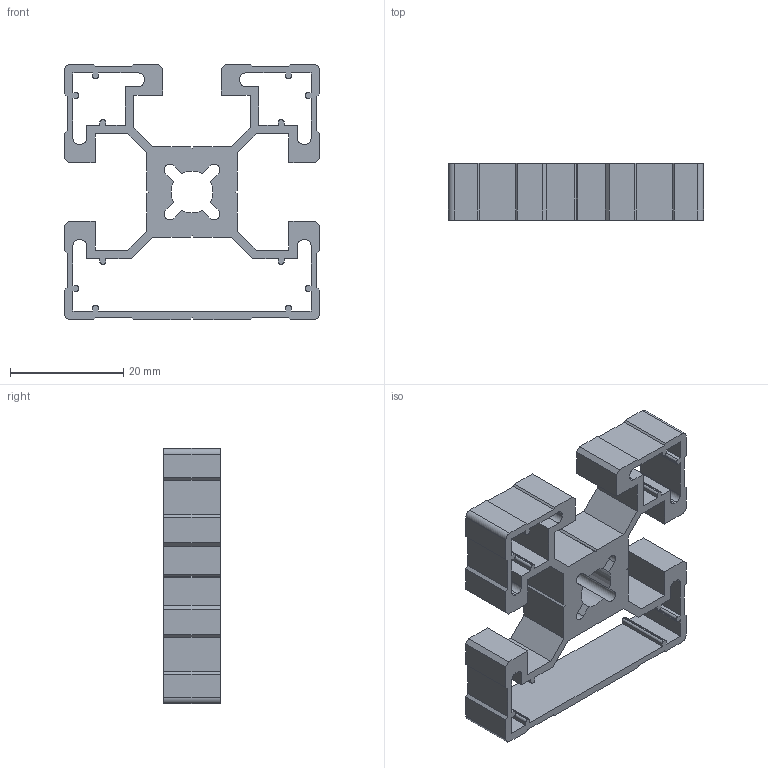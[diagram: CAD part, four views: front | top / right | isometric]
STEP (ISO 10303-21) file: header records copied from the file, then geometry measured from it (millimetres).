
FILE_DESCRIPTION((''),'2;1');
FILE_NAME('PR045C01','2002-12-27T',('Lipro doo'),('Lipro d.o.o.'),'PRO/ENGINEER BY PARAMETRIC TECHNOLOGY CORPORATION, 2001150','PRO/ENGINEER BY PARAMETRIC TECHNOLOGY CORPORATION, 2001150','');
FILE_SCHEMA(('CONFIG_CONTROL_DESIGN'));
Length unit declared in the file: millimetre
Products named in the file (1): PR045C01
Bounding box: 45 x 10 x 45 mm (x, y, z)
Volume: 5844 mm3; surface area: 7100.1 mm2
Topology: 1 solids, 1 shells, 221 faces, 657 edges, 438 vertices
Faces by surface type: plane 173, cylinder 48
Entity records: 7401 total; most frequent: CARTESIAN_POINT 1316, ORIENTED_EDGE 1314, DIRECTION 1195, EDGE_CURVE 657, VECTOR 561, LINE 561, VERTEX_POINT 438, AXIS2_PLACEMENT_3D 317
